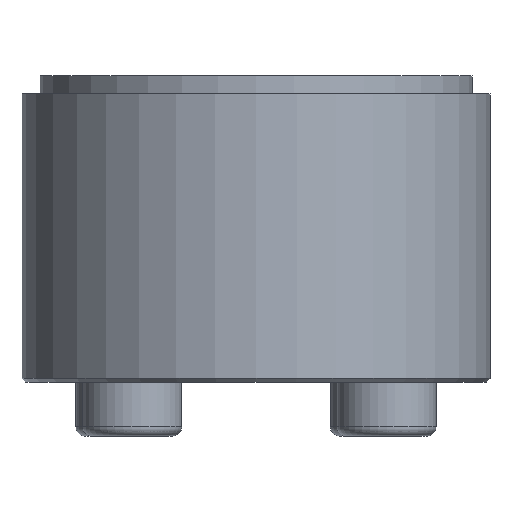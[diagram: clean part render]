
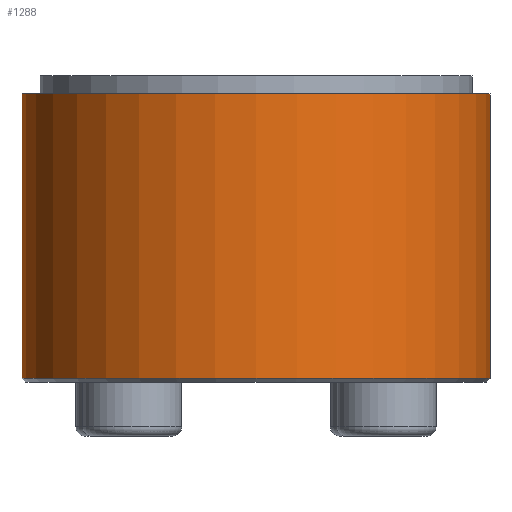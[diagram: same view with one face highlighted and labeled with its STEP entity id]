
A CAD part, front view. The second image highlights one B-rep face of the part: STEP entity #1288.
In plain terms, the highlighted cylindrical face has radius 13 mm (diameter 26 mm), a partial arc.
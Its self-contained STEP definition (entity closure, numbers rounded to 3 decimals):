
#40 = DIRECTION ( 'NONE',  ( 0., 0., -1. ) ) ;
#41 = EDGE_CURVE ( 'NONE', #1343, #1604, #996, .T. ) ;
#64 = VERTEX_POINT ( 'NONE', #1220 ) ;
#114 = EDGE_LOOP ( 'NONE', ( #1534, #1081, #1362, #1711 ) ) ;
#133 = CARTESIAN_POINT ( 'NONE',  ( 0., 0., 7.5 ) ) ;
#247 = CIRCLE ( 'NONE', #1277, 13. ) ;
#271 = LINE ( 'NONE', #1592, #660 ) ;
#389 = DIRECTION ( 'NONE',  ( 0., 0., -1. ) ) ;
#418 = EDGE_CURVE ( 'NONE', #1343, #64, #271, .T. ) ;
#503 = DIRECTION ( 'NONE',  ( 0., 0., 1. ) ) ;
#528 = CYLINDRICAL_SURFACE ( 'NONE', #1153, 13. ) ;
#632 = CARTESIAN_POINT ( 'NONE',  ( 0., 0., -8.3 ) ) ;
#633 = AXIS2_PLACEMENT_3D ( 'NONE', #133, #1513, #830 ) ;
#636 = FACE_OUTER_BOUND ( 'NONE', #114, .T. ) ;
#641 = DIRECTION ( 'NONE',  ( -1., 0., 0. ) ) ;
#660 = VECTOR ( 'NONE', #768, 1000. ) ;
#693 = VERTEX_POINT ( 'NONE', #1243 ) ;
#758 = EDGE_CURVE ( 'NONE', #1604, #693, #1467, .T. ) ;
#768 = DIRECTION ( 'NONE',  ( 0., 0., -1. ) ) ;
#830 = DIRECTION ( 'NONE',  ( 1., 0., 0. ) ) ;
#996 = CIRCLE ( 'NONE', #633, 13. ) ;
#1018 = CARTESIAN_POINT ( 'NONE',  ( -13., 0., 7.5 ) ) ;
#1059 = EDGE_CURVE ( 'NONE', #693, #64, #247, .T. ) ;
#1081 = ORIENTED_EDGE ( 'NONE', *, *, #41, .T. ) ;
#1103 = CARTESIAN_POINT ( 'NONE',  ( 13., 0., 7.5 ) ) ;
#1114 = CARTESIAN_POINT ( 'NONE',  ( -13., 0., 0. ) ) ;
#1153 = AXIS2_PLACEMENT_3D ( 'NONE', #1490, #389, #1346 ) ;
#1220 = CARTESIAN_POINT ( 'NONE',  ( 13., 0., -8.3 ) ) ;
#1243 = CARTESIAN_POINT ( 'NONE',  ( -13., 0., -8.3 ) ) ;
#1277 = AXIS2_PLACEMENT_3D ( 'NONE', #632, #503, #641 ) ;
#1288 = ADVANCED_FACE ( 'NONE', ( #636 ), #528, .T. ) ;
#1343 = VERTEX_POINT ( 'NONE', #1103 ) ;
#1346 = DIRECTION ( 'NONE',  ( -1., 0., 0. ) ) ;
#1362 = ORIENTED_EDGE ( 'NONE', *, *, #758, .T. ) ;
#1407 = VECTOR ( 'NONE', #40, 1000. ) ;
#1467 = LINE ( 'NONE', #1114, #1407 ) ;
#1490 = CARTESIAN_POINT ( 'NONE',  ( 0., 0., 0. ) ) ;
#1513 = DIRECTION ( 'NONE',  ( 0., 0., -1. ) ) ;
#1534 = ORIENTED_EDGE ( 'NONE', *, *, #418, .F. ) ;
#1592 = CARTESIAN_POINT ( 'NONE',  ( 13., 0., 0. ) ) ;
#1604 = VERTEX_POINT ( 'NONE', #1018 ) ;
#1711 = ORIENTED_EDGE ( 'NONE', *, *, #1059, .T. ) ;
